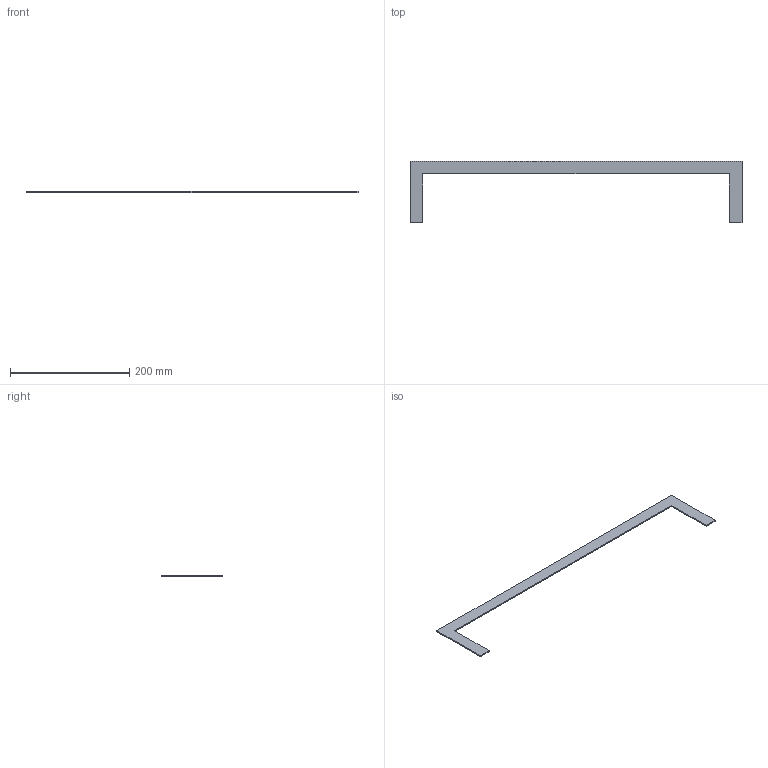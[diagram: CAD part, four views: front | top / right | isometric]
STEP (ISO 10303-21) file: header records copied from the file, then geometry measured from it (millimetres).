
FILE_DESCRIPTION(('Open CASCADE Model'),'2;1');
FILE_NAME('Open CASCADE Shape Model','2026-10-15T15:10:05',('Author'),( 'Open CASCADE'),'Open CASCADE STEP processor 8.0','Open CASCADE 8.0' ,'Unknown');
FILE_SCHEMA(('AUTOMOTIVE_DESIGN { 1 0 10303 214 1 1 1 1 }'));
Length unit declared in the file: millimetre
Products named in the file (1): MG14_JUNTA_SOLAPE_RECORTET2_REF 128
Bounding box: 556 x 103 x 2 mm (x, y, z)
Volume: 30240 mm3; surface area: 33204 mm2
Topology: 1 solids, 1 shells, 10 faces, 24 edges, 16 vertices
Faces by surface type: plane 10
Entity records: 610 total; most frequent: CARTESIAN_POINT 99, DIRECTION 94, LINE 72, VECTOR 72, ORIENTED_EDGE 48, PCURVE 48, DEFINITIONAL_REPRESENTATION 48, EDGE_CURVE 24
